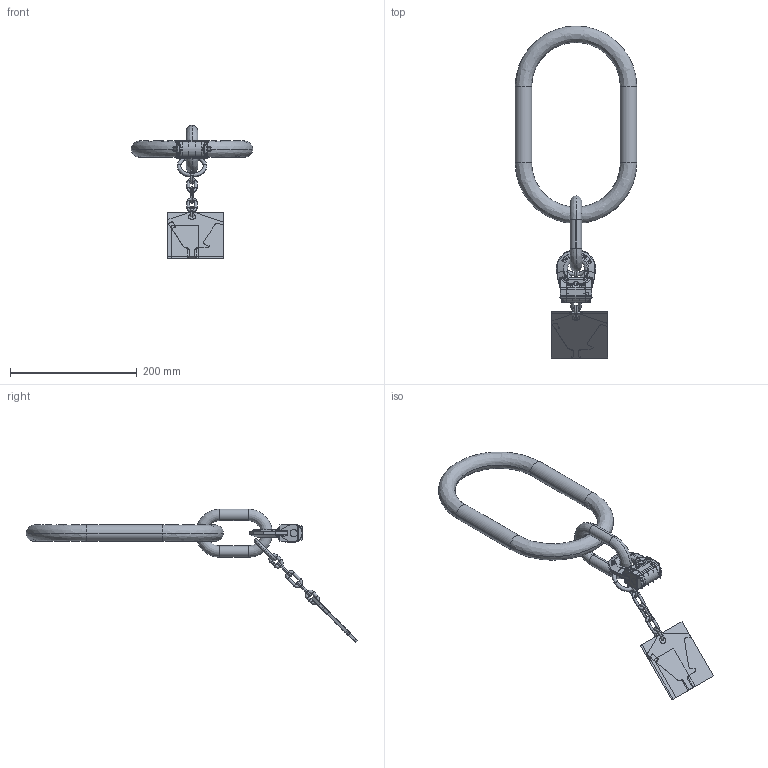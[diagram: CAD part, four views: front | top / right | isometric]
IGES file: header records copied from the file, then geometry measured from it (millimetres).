
Start section:  PTC IGES file: VSAK-1-10_140_7100689_M31566-P-3.igs
Global section: file name: VSAK-1-10_140_7100689_M31566-P-3.igs; native system: Pro/ENGINEER by Parametric Technology Corporation; preprocessor: 2010140; author: Andreas.Wendler; organization: Unknown; date: 20141024.100356; units: millimetre
Bounding box: 192 x 524.24 x 211.24 mm (x, y, z)
Volume: 553861.7 mm3; surface area: 477040.8 mm2
Topology: 10 solids, 10 shells, 1092 faces, 5378 edges, 6644 vertices
Faces by surface type: bspline 702, revolution 390
